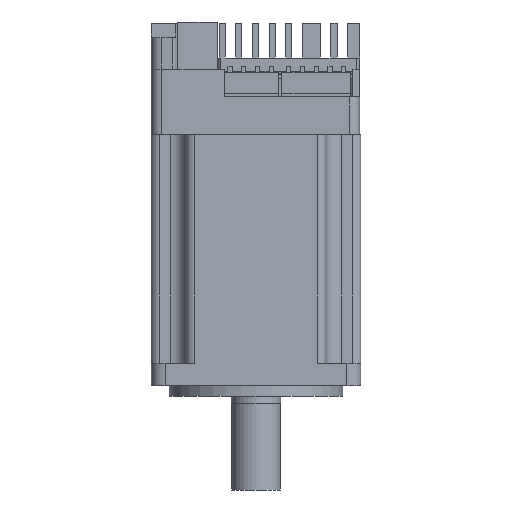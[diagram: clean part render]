
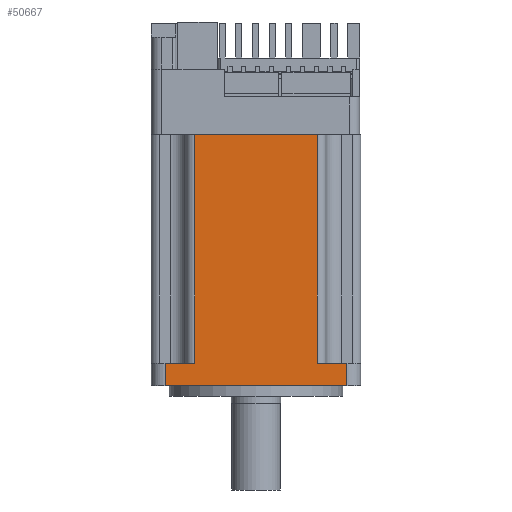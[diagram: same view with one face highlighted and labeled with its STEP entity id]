
A CAD part, front view. The second image highlights one B-rep face of the part: STEP entity #50667.
In plain terms, the highlighted planar face has unit normal (0, -1, 0).
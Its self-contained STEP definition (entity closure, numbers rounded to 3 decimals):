
#84 = DIRECTION ( 'NONE',  ( 0., 1., 0. ) ) ;
#1381 = LINE ( 'NONE', #17046, #83253 ) ;
#1391 = VERTEX_POINT ( 'NONE', #68745 ) ;
#2503 = ORIENTED_EDGE ( 'NONE', *, *, #40529, .F. ) ;
#5858 = CARTESIAN_POINT ( 'NONE',  ( -26.15, -30.15, 0. ) ) ;
#8619 = CARTESIAN_POINT ( 'NONE',  ( -17.65, -30.15, 6.5 ) ) ;
#13145 = VECTOR ( 'NONE', #47967, 1000. ) ;
#13527 = LINE ( 'NONE', #71022, #17276 ) ;
#13576 = LINE ( 'NONE', #41861, #13145 ) ;
#15675 = DIRECTION ( 'NONE',  ( 0., 0., -1. ) ) ;
#15962 = CARTESIAN_POINT ( 'NONE',  ( 26.15, -30.15, 0. ) ) ;
#16023 = DIRECTION ( 'NONE',  ( 1., 0., 0. ) ) ;
#17046 = CARTESIAN_POINT ( 'NONE',  ( -26.15, -30.15, 6.5 ) ) ;
#17276 = VECTOR ( 'NONE', #42268, 1000. ) ;
#17907 = LINE ( 'NONE', #26230, #84864 ) ;
#19976 = FACE_OUTER_BOUND ( 'NONE', #47556, .T. ) ;
#20230 = VECTOR ( 'NONE', #16023, 1000. ) ;
#20877 = ORIENTED_EDGE ( 'NONE', *, *, #32235, .F. ) ;
#21894 = CARTESIAN_POINT ( 'NONE',  ( -17.65, -30.15, 72.4 ) ) ;
#22157 = CARTESIAN_POINT ( 'NONE',  ( -17.65, -30.15, 72.4 ) ) ;
#26230 = CARTESIAN_POINT ( 'NONE',  ( 26.15, -30.15, 6.5 ) ) ;
#27363 = ORIENTED_EDGE ( 'NONE', *, *, #90180, .F. ) ;
#28887 = VECTOR ( 'NONE', #61047, 1000. ) ;
#32235 = EDGE_CURVE ( 'NONE', #85902, #46319, #78560, .T. ) ;
#32714 = LINE ( 'NONE', #90676, #28887 ) ;
#33288 = VERTEX_POINT ( 'NONE', #5858 ) ;
#33619 = ORIENTED_EDGE ( 'NONE', *, *, #71432, .T. ) ;
#37791 = EDGE_CURVE ( 'NONE', #88819, #45685, #17907, .T. ) ;
#38535 = VERTEX_POINT ( 'NONE', #53868 ) ;
#40390 = PLANE ( 'NONE',  #55316 ) ;
#40529 = EDGE_CURVE ( 'NONE', #38535, #88819, #13527, .T. ) ;
#41861 = CARTESIAN_POINT ( 'NONE',  ( 17.65, -30.15, 72.4 ) ) ;
#42268 = DIRECTION ( 'NONE',  ( 1., 0., 0. ) ) ;
#43477 = DIRECTION ( 'NONE',  ( 0., 0., -1. ) ) ;
#43989 = VECTOR ( 'NONE', #43477, 1000. ) ;
#45685 = VERTEX_POINT ( 'NONE', #15962 ) ;
#46319 = VERTEX_POINT ( 'NONE', #69842 ) ;
#47556 = EDGE_LOOP ( 'NONE', ( #33619, #76718, #2503, #27363, #20877, #50063, #75172, #57454 ) ) ;
#47967 = DIRECTION ( 'NONE',  ( 0., 0., -1. ) ) ;
#50063 = ORIENTED_EDGE ( 'NONE', *, *, #67697, .T. ) ;
#50667 = ADVANCED_FACE ( 'NONE', ( #19976 ), #40390, .F. ) ;
#53868 = CARTESIAN_POINT ( 'NONE',  ( 17.65, -30.15, 6.5 ) ) ;
#54094 = VECTOR ( 'NONE', #63199, 1000. ) ;
#55316 = AXIS2_PLACEMENT_3D ( 'NONE', #61756, #84, #91402 ) ;
#56443 = EDGE_CURVE ( 'NONE', #1391, #33288, #1381, .T. ) ;
#57454 = ORIENTED_EDGE ( 'NONE', *, *, #56443, .T. ) ;
#61047 = DIRECTION ( 'NONE',  ( 1., 0., 0. ) ) ;
#61756 = CARTESIAN_POINT ( 'NONE',  ( 26.15, -30.15, 6.5 ) ) ;
#63199 = DIRECTION ( 'NONE',  ( 1., 0., 0. ) ) ;
#65737 = CARTESIAN_POINT ( 'NONE',  ( -17.65, -30.15, 72.4 ) ) ;
#67697 = EDGE_CURVE ( 'NONE', #85902, #67847, #77865, .T. ) ;
#67847 = VERTEX_POINT ( 'NONE', #89722 ) ;
#68426 = DIRECTION ( 'NONE',  ( 0., 0., -1. ) ) ;
#68745 = CARTESIAN_POINT ( 'NONE',  ( -26.15, -30.15, 6.5 ) ) ;
#69842 = CARTESIAN_POINT ( 'NONE',  ( 17.65, -30.15, 72.4 ) ) ;
#71022 = CARTESIAN_POINT ( 'NONE',  ( -17.65, -30.15, 6.5 ) ) ;
#71432 = EDGE_CURVE ( 'NONE', #33288, #45685, #32714, .T. ) ;
#75172 = ORIENTED_EDGE ( 'NONE', *, *, #88833, .F. ) ;
#76718 = ORIENTED_EDGE ( 'NONE', *, *, #37791, .F. ) ;
#77865 = LINE ( 'NONE', #22157, #43989 ) ;
#78560 = LINE ( 'NONE', #21894, #54094 ) ;
#80088 = CARTESIAN_POINT ( 'NONE',  ( 26.15, -30.15, 6.5 ) ) ;
#83253 = VECTOR ( 'NONE', #15675, 1000. ) ;
#84864 = VECTOR ( 'NONE', #68426, 1000. ) ;
#85902 = VERTEX_POINT ( 'NONE', #65737 ) ;
#87015 = LINE ( 'NONE', #8619, #20230 ) ;
#88819 = VERTEX_POINT ( 'NONE', #80088 ) ;
#88833 = EDGE_CURVE ( 'NONE', #1391, #67847, #87015, .T. ) ;
#89722 = CARTESIAN_POINT ( 'NONE',  ( -17.65, -30.15, 6.5 ) ) ;
#90180 = EDGE_CURVE ( 'NONE', #46319, #38535, #13576, .T. ) ;
#90676 = CARTESIAN_POINT ( 'NONE',  ( 26.15, -30.15, 0. ) ) ;
#91402 = DIRECTION ( 'NONE',  ( 0., 0., 1. ) ) ;
